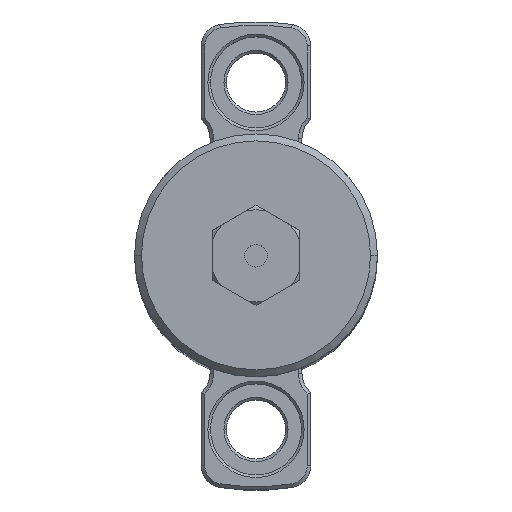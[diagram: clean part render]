
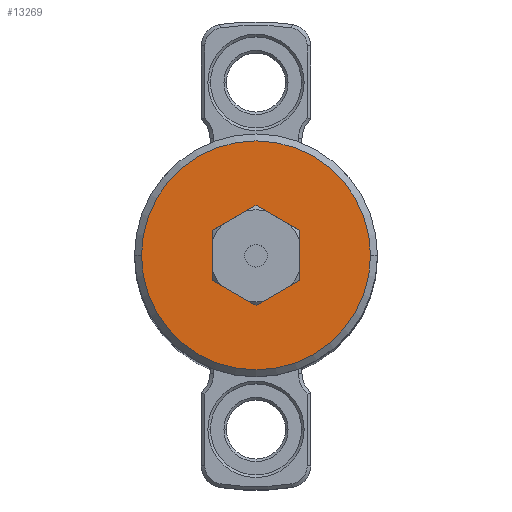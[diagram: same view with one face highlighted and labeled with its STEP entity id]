
A CAD part, top view. The second image highlights one B-rep face of the part: STEP entity #13269.
In plain terms, the highlighted planar face has unit normal (0, 0, 1).
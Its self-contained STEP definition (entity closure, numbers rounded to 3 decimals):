
#75 = CARTESIAN_POINT ( 'NONE',  ( 0., 5.774, 0. ) ) ;
#248 = ORIENTED_EDGE ( 'NONE', *, *, #13707, .F. ) ;
#574 = VERTEX_POINT ( 'NONE', #4398 ) ;
#641 = VECTOR ( 'NONE', #14164, 1000. ) ;
#1243 = CIRCLE ( 'NONE', #6520, 13.2 ) ;
#1285 = DIRECTION ( 'NONE',  ( -0.866, 0.5, 0. ) ) ;
#1287 = EDGE_CURVE ( 'NONE', #574, #12395, #14320, .T. ) ;
#1628 = EDGE_LOOP ( 'NONE', ( #7716, #11454 ) ) ;
#1881 = EDGE_LOOP ( 'NONE', ( #2991, #6887, #248, #10949, #4763, #14860 ) ) ;
#2679 = DIRECTION ( 'NONE',  ( 0.866, -0.5, 0. ) ) ;
#2910 = VECTOR ( 'NONE', #15725, 1000. ) ;
#2991 = ORIENTED_EDGE ( 'NONE', *, *, #12780, .F. ) ;
#3010 = VERTEX_POINT ( 'NONE', #16272 ) ;
#3121 = VECTOR ( 'NONE', #1285, 1000. ) ;
#3941 = DIRECTION ( 'NONE',  ( 0., 0., -1. ) ) ;
#4023 = DIRECTION ( 'NONE',  ( 0., 0., 1. ) ) ;
#4205 = FACE_BOUND ( 'NONE', #1881, .T. ) ;
#4398 = CARTESIAN_POINT ( 'NONE',  ( -5., 2.887, 0. ) ) ;
#4763 = ORIENTED_EDGE ( 'NONE', *, *, #5134, .F. ) ;
#4892 = CARTESIAN_POINT ( 'NONE',  ( 5., -2.887, 0. ) ) ;
#5134 = EDGE_CURVE ( 'NONE', #12395, #6665, #10185, .T. ) ;
#5165 = CARTESIAN_POINT ( 'NONE',  ( 0., -5.774, 0. ) ) ;
#5733 = VECTOR ( 'NONE', #16673, 1000. ) ;
#5874 = CARTESIAN_POINT ( 'NONE',  ( -5., 2.887, 0. ) ) ;
#6102 = CIRCLE ( 'NONE', #10987, 13.2 ) ;
#6499 = VECTOR ( 'NONE', #2679, 1000. ) ;
#6520 = AXIS2_PLACEMENT_3D ( 'NONE', #16214, #7925, #17592 ) ;
#6665 = VERTEX_POINT ( 'NONE', #5165 ) ;
#6676 = CARTESIAN_POINT ( 'NONE',  ( 0., 13.2, 0. ) ) ;
#6697 = DIRECTION ( 'NONE',  ( 0.866, 0.5, 0. ) ) ;
#6887 = ORIENTED_EDGE ( 'NONE', *, *, #10812, .F. ) ;
#7305 = VERTEX_POINT ( 'NONE', #15131 ) ;
#7450 = FACE_OUTER_BOUND ( 'NONE', #1628, .T. ) ;
#7716 = ORIENTED_EDGE ( 'NONE', *, *, #17676, .T. ) ;
#7925 = DIRECTION ( 'NONE',  ( 0., 0., 1. ) ) ;
#9036 = CARTESIAN_POINT ( 'NONE',  ( -5., -2.887, 0. ) ) ;
#9407 = LINE ( 'NONE', #75, #5733 ) ;
#9601 = CARTESIAN_POINT ( 'NONE',  ( 5., 2.887, 0. ) ) ;
#9938 = VERTEX_POINT ( 'NONE', #11489 ) ;
#10185 = LINE ( 'NONE', #13728, #6499 ) ;
#10419 = CARTESIAN_POINT ( 'NONE',  ( 13.2, 0., 0. ) ) ;
#10786 = PLANE ( 'NONE',  #11644 ) ;
#10812 = EDGE_CURVE ( 'NONE', #7305, #9938, #13742, .T. ) ;
#10949 = ORIENTED_EDGE ( 'NONE', *, *, #16585, .F. ) ;
#10987 = AXIS2_PLACEMENT_3D ( 'NONE', #12317, #4023, #13713 ) ;
#11454 = ORIENTED_EDGE ( 'NONE', *, *, #16632, .T. ) ;
#11489 = CARTESIAN_POINT ( 'NONE',  ( 0., 5.774, 0. ) ) ;
#11644 = AXIS2_PLACEMENT_3D ( 'NONE', #6676, #3941, #13645 ) ;
#12317 = CARTESIAN_POINT ( 'NONE',  ( 0., 0., 0. ) ) ;
#12395 = VERTEX_POINT ( 'NONE', #9036 ) ;
#12594 = VECTOR ( 'NONE', #6697, 1000. ) ;
#12780 = EDGE_CURVE ( 'NONE', #9938, #574, #9407, .T. ) ;
#13069 = VERTEX_POINT ( 'NONE', #10419 ) ;
#13269 = ADVANCED_FACE ( 'NONE', ( #4205, #7450 ), #10786, .F. ) ;
#13645 = DIRECTION ( 'NONE',  ( -1., 0., 0. ) ) ;
#13707 = EDGE_CURVE ( 'NONE', #13820, #7305, #14403, .T. ) ;
#13713 = DIRECTION ( 'NONE',  ( 1., 0., 0. ) ) ;
#13728 = CARTESIAN_POINT ( 'NONE',  ( -5., -2.887, 0. ) ) ;
#13742 = LINE ( 'NONE', #9601, #3121 ) ;
#13820 = VERTEX_POINT ( 'NONE', #4892 ) ;
#14164 = DIRECTION ( 'NONE',  ( 0., -1., 0. ) ) ;
#14284 = CARTESIAN_POINT ( 'NONE',  ( 5., -2.887, 0. ) ) ;
#14320 = LINE ( 'NONE', #5874, #641 ) ;
#14403 = LINE ( 'NONE', #14284, #2910 ) ;
#14860 = ORIENTED_EDGE ( 'NONE', *, *, #1287, .F. ) ;
#15131 = CARTESIAN_POINT ( 'NONE',  ( 5., 2.887, 0. ) ) ;
#15725 = DIRECTION ( 'NONE',  ( 0., 1., 0. ) ) ;
#16214 = CARTESIAN_POINT ( 'NONE',  ( 0., 0., 0. ) ) ;
#16269 = LINE ( 'NONE', #17623, #12594 ) ;
#16272 = CARTESIAN_POINT ( 'NONE',  ( -13.2, 0., 0. ) ) ;
#16585 = EDGE_CURVE ( 'NONE', #6665, #13820, #16269, .T. ) ;
#16632 = EDGE_CURVE ( 'NONE', #13069, #3010, #6102, .T. ) ;
#16673 = DIRECTION ( 'NONE',  ( -0.866, -0.5, 0. ) ) ;
#17592 = DIRECTION ( 'NONE',  ( 1., 0., 0. ) ) ;
#17623 = CARTESIAN_POINT ( 'NONE',  ( 0., -5.774, 0. ) ) ;
#17676 = EDGE_CURVE ( 'NONE', #3010, #13069, #1243, .T. ) ;
